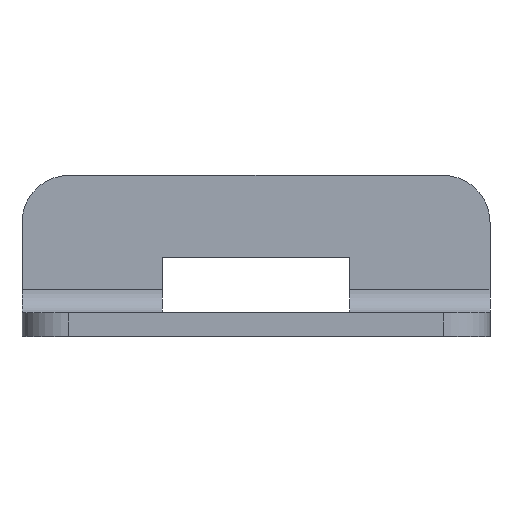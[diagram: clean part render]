
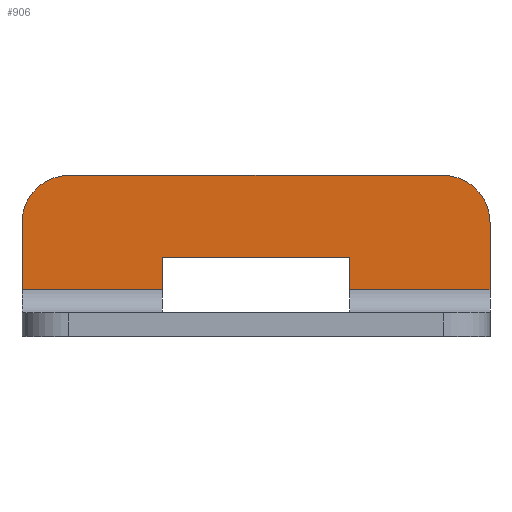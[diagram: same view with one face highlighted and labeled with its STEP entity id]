
A CAD part, top view. The second image highlights one B-rep face of the part: STEP entity #906.
In plain terms, the highlighted planar face has unit normal (0, 0, 1).
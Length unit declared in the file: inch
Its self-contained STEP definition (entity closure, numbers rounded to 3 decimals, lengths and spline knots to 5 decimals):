
#1 = CARTESIAN_POINT ( 'NONE',  ( -2., 1.47126, 0.05 ) ) ;
#5 = AXIS2_PLACEMENT_3D ( 'NONE', #94, #1189, #360 ) ;
#17 = LINE ( 'NONE', #952, #1034 ) ;
#21 = CARTESIAN_POINT ( 'NONE',  ( -2.5, 0.25, 0.05 ) ) ;
#22 = ORIENTED_EDGE ( 'NONE', *, *, #626, .F. ) ;
#49 = DIRECTION ( 'NONE',  ( 0., 0., -1. ) ) ;
#51 = ORIENTED_EDGE ( 'NONE', *, *, #969, .F. ) ;
#60 = AXIS2_PLACEMENT_3D ( 'NONE', #574, #662, #594 ) ;
#88 = EDGE_CURVE ( 'NONE', #857, #807, #1028, .T. ) ;
#94 = CARTESIAN_POINT ( 'NONE',  ( 2., 0.97126, 0.05 ) ) ;
#98 = CARTESIAN_POINT ( 'NONE',  ( 2.5, 0.97126, 0.05 ) ) ;
#100 = CARTESIAN_POINT ( 'NONE',  ( 1., -0.77874, 0.05 ) ) ;
#105 = LINE ( 'NONE', #100, #600 ) ;
#113 = CARTESIAN_POINT ( 'NONE',  ( 2., 1.47126, 0.05 ) ) ;
#120 = VECTOR ( 'NONE', #643, 39.37008 ) ;
#128 = VECTOR ( 'NONE', #258, 39.37008 ) ;
#139 = VERTEX_POINT ( 'NONE', #113 ) ;
#151 = ORIENTED_EDGE ( 'NONE', *, *, #1128, .T. ) ;
#153 = ORIENTED_EDGE ( 'NONE', *, *, #1030, .T. ) ;
#169 = VERTEX_POINT ( 'NONE', #862 ) ;
#187 = LINE ( 'NONE', #453, #120 ) ;
#221 = DIRECTION ( 'NONE',  ( 0., -1., 0. ) ) ;
#247 = DIRECTION ( 'NONE',  ( 0., 1., 0. ) ) ;
#258 = DIRECTION ( 'NONE',  ( 1., 0., 0. ) ) ;
#294 = ORIENTED_EDGE ( 'NONE', *, *, #88, .T. ) ;
#317 = ORIENTED_EDGE ( 'NONE', *, *, #1062, .T. ) ;
#321 = VERTEX_POINT ( 'NONE', #1082 ) ;
#340 = VECTOR ( 'NONE', #653, 39.37008 ) ;
#351 = AXIS2_PLACEMENT_3D ( 'NONE', #412, #49, #247 ) ;
#352 = CIRCLE ( 'NONE', #60, 0.5 ) ;
#360 = DIRECTION ( 'NONE',  ( 0., 1., 0. ) ) ;
#367 = CARTESIAN_POINT ( 'NONE',  ( 2.5, -1.52874, 0.05 ) ) ;
#374 = CIRCLE ( 'NONE', #5, 0.5 ) ;
#412 = CARTESIAN_POINT ( 'NONE',  ( 0., 0.47126, 0.05 ) ) ;
#435 = PLANE ( 'NONE',  #351 ) ;
#441 = EDGE_CURVE ( 'NONE', #1147, #169, #658, .T. ) ;
#453 = CARTESIAN_POINT ( 'NONE',  ( -1., 0.59626, 0.05 ) ) ;
#487 = VECTOR ( 'NONE', #221, 39.37008 ) ;
#496 = DIRECTION ( 'NONE',  ( 0., 1., 0. ) ) ;
#517 = EDGE_LOOP ( 'NONE', ( #723, #153, #709, #151, #317, #729, #909, #51, #22, #294 ) ) ;
#569 = CARTESIAN_POINT ( 'NONE',  ( 1., 0.25, 0.05 ) ) ;
#574 = CARTESIAN_POINT ( 'NONE',  ( -2., 0.97126, 0.05 ) ) ;
#590 = VECTOR ( 'NONE', #1088, 39.37008 ) ;
#594 = DIRECTION ( 'NONE',  ( 0., 1., 0. ) ) ;
#600 = VECTOR ( 'NONE', #496, 39.37008 ) ;
#626 = EDGE_CURVE ( 'NONE', #857, #860, #105, .T. ) ;
#633 = CARTESIAN_POINT ( 'NONE',  ( 0., 0.25, 0.05 ) ) ;
#637 = CARTESIAN_POINT ( 'NONE',  ( -1., 0.59626, 0.05 ) ) ;
#643 = DIRECTION ( 'NONE',  ( -1., 0., 0. ) ) ;
#653 = DIRECTION ( 'NONE',  ( 1., 0., 0. ) ) ;
#658 = LINE ( 'NONE', #633, #128 ) ;
#662 = DIRECTION ( 'NONE',  ( 0., 0., 1. ) ) ;
#709 = ORIENTED_EDGE ( 'NONE', *, *, #1145, .T. ) ;
#717 = FACE_OUTER_BOUND ( 'NONE', #517, .T. ) ;
#723 = ORIENTED_EDGE ( 'NONE', *, *, #929, .T. ) ;
#728 = CARTESIAN_POINT ( 'NONE',  ( -2.5, -1.52874, 0.05 ) ) ;
#729 = ORIENTED_EDGE ( 'NONE', *, *, #441, .T. ) ;
#805 = VECTOR ( 'NONE', #1108, 39.37008 ) ;
#807 = VERTEX_POINT ( 'NONE', #1113 ) ;
#857 = VERTEX_POINT ( 'NONE', #569 ) ;
#860 = VERTEX_POINT ( 'NONE', #1078 ) ;
#862 = CARTESIAN_POINT ( 'NONE',  ( -1., 0.25, 0.05 ) ) ;
#867 = CARTESIAN_POINT ( 'NONE',  ( -1., -0.77874, 0.05 ) ) ;
#906 = ADVANCED_FACE ( 'NONE', ( #717 ), #435, .F. ) ;
#909 = ORIENTED_EDGE ( 'NONE', *, *, #1143, .F. ) ;
#929 = EDGE_CURVE ( 'NONE', #807, #1059, #1196, .T. ) ;
#942 = DIRECTION ( 'NONE',  ( -1., 0., 0. ) ) ;
#946 = LINE ( 'NONE', #867, #487 ) ;
#952 = CARTESIAN_POINT ( 'NONE',  ( -2.5, 1.47126, 0.05 ) ) ;
#969 = EDGE_CURVE ( 'NONE', #860, #981, #187, .T. ) ;
#981 = VERTEX_POINT ( 'NONE', #637 ) ;
#1028 = LINE ( 'NONE', #1195, #340 ) ;
#1030 = EDGE_CURVE ( 'NONE', #1059, #139, #374, .T. ) ;
#1034 = VECTOR ( 'NONE', #942, 39.37008 ) ;
#1049 = VERTEX_POINT ( 'NONE', #1 ) ;
#1059 = VERTEX_POINT ( 'NONE', #98 ) ;
#1062 = EDGE_CURVE ( 'NONE', #321, #1147, #1183, .T. ) ;
#1078 = CARTESIAN_POINT ( 'NONE',  ( 1., 0.59626, 0.05 ) ) ;
#1082 = CARTESIAN_POINT ( 'NONE',  ( -2.5, 0.97126, 0.05 ) ) ;
#1088 = DIRECTION ( 'NONE',  ( 0., -1., 0. ) ) ;
#1108 = DIRECTION ( 'NONE',  ( 0., 1., 0. ) ) ;
#1113 = CARTESIAN_POINT ( 'NONE',  ( 2.5, 0.25, 0.05 ) ) ;
#1128 = EDGE_CURVE ( 'NONE', #1049, #321, #352, .T. ) ;
#1143 = EDGE_CURVE ( 'NONE', #981, #169, #946, .T. ) ;
#1145 = EDGE_CURVE ( 'NONE', #139, #1049, #17, .T. ) ;
#1147 = VERTEX_POINT ( 'NONE', #21 ) ;
#1183 = LINE ( 'NONE', #728, #590 ) ;
#1189 = DIRECTION ( 'NONE',  ( 0., 0., 1. ) ) ;
#1195 = CARTESIAN_POINT ( 'NONE',  ( 0., 0.25, 0.05 ) ) ;
#1196 = LINE ( 'NONE', #367, #805 ) ;
